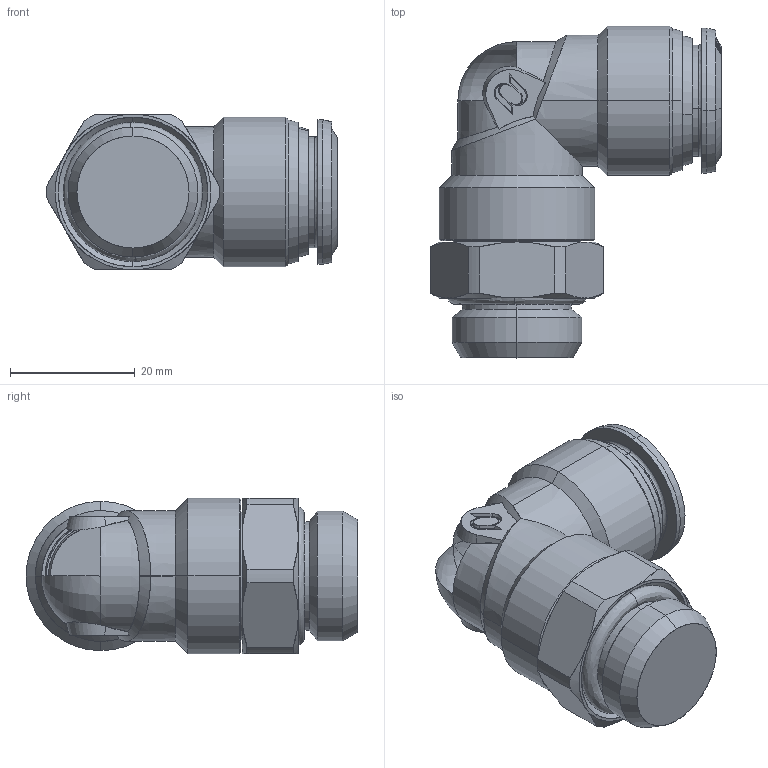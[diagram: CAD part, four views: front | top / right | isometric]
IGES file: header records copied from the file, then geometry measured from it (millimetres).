
Start section: SolidWorks IGES file using analytic representation for surfaces
Global section: file name: \\192.168.0.114\Utecnico\Disegni\Disegni Esecutivi\SERIE 50000\ASSIEMI_50000\50116\IGES e STEP\5011600032A.IGS; native system: SolidWorks 2020; preprocessor: SolidWorks 2020; author: cad06; date: 231102.115751; units: millimetre
Bounding box: 46.65 x 53.3 x 25 mm (x, y, z)
Surface area: 8203.7 mm2 (no closed solid volume)
Topology: 0 solids, 0 shells, 175 faces, 2049 edges, 2047 vertices
Faces by surface type: bspline 89, revolution 86
